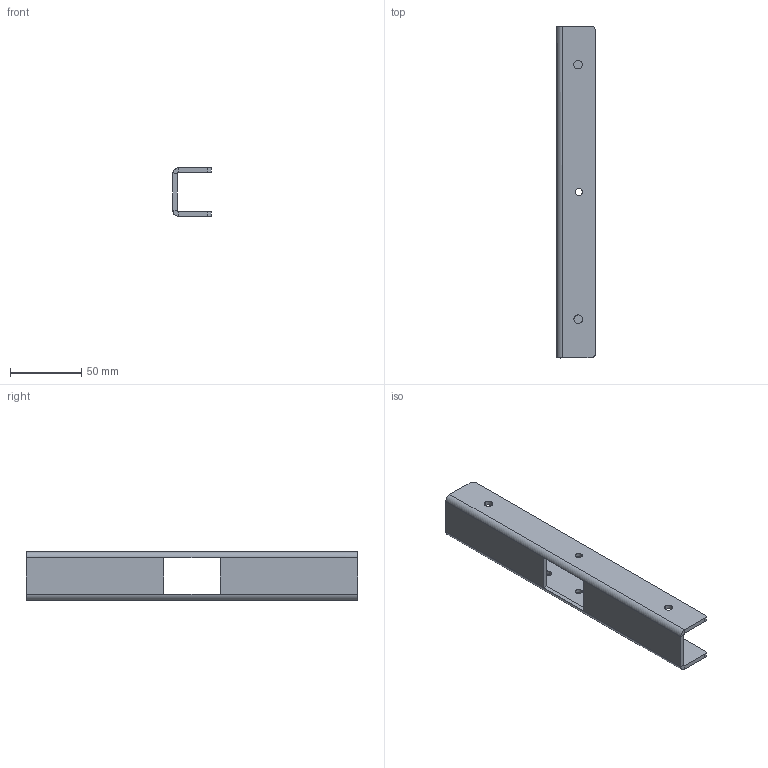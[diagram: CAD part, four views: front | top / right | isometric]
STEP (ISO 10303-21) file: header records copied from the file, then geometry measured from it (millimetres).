
FILE_DESCRIPTION(('CATIA V5 STEP Exchange'),'2;1');
FILE_NAME('C:\Users\nobody\Desktop\SQX3000-6805416_D.stp','2024-03-21T01:46:02+00:00',('none'),('none'),'CATIA Version 5 Release 20 GA (IN-10)','CATIA V5 STEP AP203 Edition 2','none');
FILE_SCHEMA(('AP203_CONFIGURATION_CONTROLLED_3D_DESIGN_OF_MECHANICAL_PARTS_AND_ASSEMBLIES_MIM_LF { 1 0 10303 403 2 1 2}'));
Length unit declared in the file: millimetre
Products named in the file (1): SQX3000-6805416
Bounding box: 27.18 x 233.42 x 34 mm (x, y, z)
Volume: 52143.9 mm3; surface area: 37456.2 mm2
Topology: 1 solids, 1 shells, 50 faces, 126 edges, 76 vertices
Faces by surface type: plane 24, cylinder 22, extrusion 4
Entity records: 1914 total; most frequent: CARTESIAN_POINT 773, ORIENTED_EDGE 252, DIRECTION 169, EDGE_CURVE 126, VERTEX_POINT 76, AXIS2_PLACEMENT_3D 68, EDGE_LOOP 66, VECTOR 62
